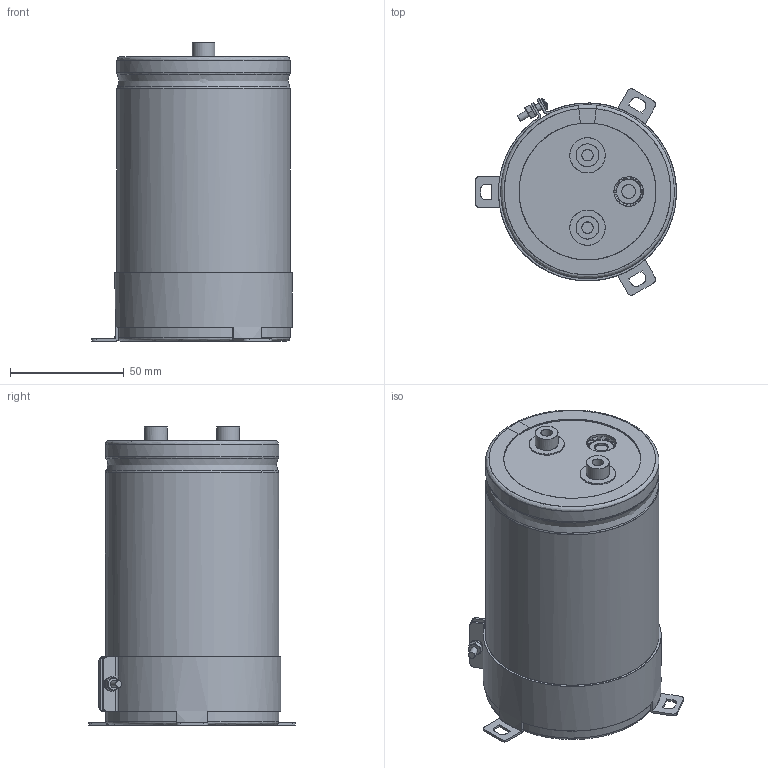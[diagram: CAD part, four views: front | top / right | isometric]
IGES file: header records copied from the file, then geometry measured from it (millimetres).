
Start section: JAMA-IS VERSION  1.0
Bounding box: 88.3 x 90.75 x 131 mm (x, y, z)
Surface area: 120010.2 mm2 (no closed solid volume)
Topology: 0 solids, 0 shells, 259 faces, 4448 edges, 4417 vertices
Faces by surface type: bspline 259
